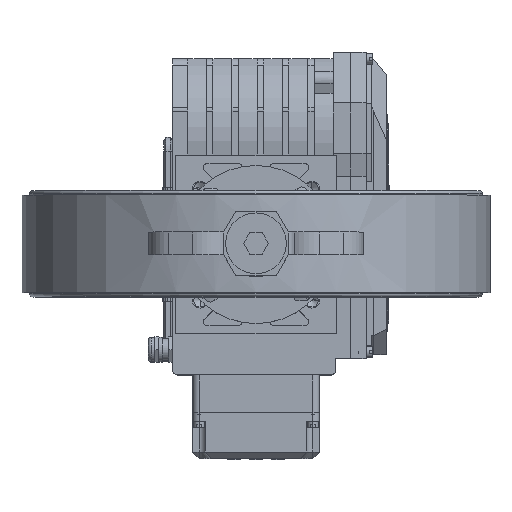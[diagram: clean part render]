
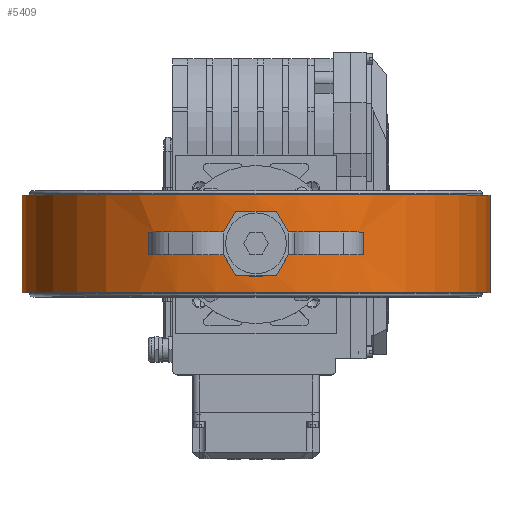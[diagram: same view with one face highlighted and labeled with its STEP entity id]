
A CAD part, top view. The second image highlights one B-rep face of the part: STEP entity #5409.
In plain terms, the highlighted cylindrical face has radius 185 mm (diameter 370 mm), a partial arc.
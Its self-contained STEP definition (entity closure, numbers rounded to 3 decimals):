
#2=DIRECTION('',(0.,1.,0.));
#3=VECTOR('',#2,77.);
#4=CARTESIAN_POINT('',(185.,-38.5,0.));
#5=LINE('',#4,#3);
#65=CARTESIAN_POINT('',(0.,-38.5,0.));
#66=DIRECTION('',(0.,1.,0.));
#67=DIRECTION('',(-1.,0.,0.));
#68=AXIS2_PLACEMENT_3D('',#65,#66,#67);
#80=DIRECTION('',(0.,1.,0.));
#81=VECTOR('',#80,77.);
#82=CARTESIAN_POINT('',(-185.,-38.5,0.));
#83=LINE('',#82,#81);
#84=DIRECTION('',(0.,-1.,0.));
#85=VECTOR('',#84,18.);
#86=CARTESIAN_POINT('',(50.841,9.,177.877));
#87=LINE('',#86,#85);
#88=DIRECTION('',(0.,1.,0.));
#89=VECTOR('',#88,18.);
#90=CARTESIAN_POINT('',(80.969,-9.,166.34));
#91=LINE('',#90,#89);
#92=DIRECTION('',(0.,1.,0.));
#93=VECTOR('',#92,18.);
#94=CARTESIAN_POINT('',(-50.841,-9.,177.877));
#95=LINE('',#94,#93);
#96=DIRECTION('',(0.,-1.,0.));
#97=VECTOR('',#96,18.);
#98=CARTESIAN_POINT('',(-80.969,9.,166.34));
#99=LINE('',#98,#97);
#100=CARTESIAN_POINT('',(0.,9.,0.));
#101=DIRECTION('',(0.,1.,0.));
#102=DIRECTION('',(-0.182,0.,0.983));
#103=AXIS2_PLACEMENT_3D('',#100,#101,#102);
#105=DIRECTION('',(0.,1.,0.));
#106=VECTOR('',#105,18.);
#107=CARTESIAN_POINT('',(-33.679,-9.,181.908));
#108=LINE('',#107,#106);
#109=CARTESIAN_POINT('',(0.,-9.,0.));
#110=DIRECTION('',(0.,1.,0.));
#111=DIRECTION('',(-0.182,0.,0.983));
#112=AXIS2_PLACEMENT_3D('',#109,#110,#111);
#114=CARTESIAN_POINT('',(0.,-25.5,0.));
#115=DIRECTION('',(0.,1.,0.));
#116=DIRECTION('',(-0.086,0.,0.996));
#117=AXIS2_PLACEMENT_3D('',#114,#115,#116);
#119=CARTESIAN_POINT('',(0.,-9.,0.));
#120=DIRECTION('',(0.,1.,0.));
#121=DIRECTION('',(0.138,0.,0.99));
#122=AXIS2_PLACEMENT_3D('',#119,#120,#121);
#124=DIRECTION('',(0.,1.,0.));
#125=VECTOR('',#124,18.);
#126=CARTESIAN_POINT('',(33.679,-9.,181.908));
#127=LINE('',#126,#125);
#128=CARTESIAN_POINT('',(0.,9.,0.));
#129=DIRECTION('',(0.,1.,0.));
#130=DIRECTION('',(0.138,0.,0.99));
#131=AXIS2_PLACEMENT_3D('',#128,#129,#130);
#133=CARTESIAN_POINT('',(0.,25.5,0.));
#134=DIRECTION('',(0.,1.,0.));
#135=DIRECTION('',(-0.086,0.,0.996));
#136=AXIS2_PLACEMENT_3D('',#133,#134,#135);
#143=CARTESIAN_POINT('',(0.,38.5,0.));
#144=DIRECTION('',(0.,1.,0.));
#145=DIRECTION('',(-1.,0.,0.));
#146=AXIS2_PLACEMENT_3D('',#143,#144,#145);
#911=CARTESIAN_POINT('',(-25.5,9.,183.234));
#912=CARTESIAN_POINT('',(-22.327,14.496,183.676));
#913=CARTESIAN_POINT('',(-19.151,19.996,184.034));
#914=CARTESIAN_POINT('',(-15.974,25.5,184.309));
#936=CARTESIAN_POINT('',(15.974,25.5,184.309));
#937=CARTESIAN_POINT('',(19.151,19.996,184.034));
#938=CARTESIAN_POINT('',(22.327,14.496,183.676));
#939=CARTESIAN_POINT('',(25.5,9.,183.234));
#961=CARTESIAN_POINT('',(25.5,-9.,183.234));
#962=CARTESIAN_POINT('',(22.327,-14.496,183.676));
#963=CARTESIAN_POINT('',(19.151,-19.996,184.034));
#964=CARTESIAN_POINT('',(15.974,-25.5,184.309));
#1710=CARTESIAN_POINT('',(-15.974,-25.5,184.309));
#1711=CARTESIAN_POINT('',(-19.151,-19.996,
184.034));
#1712=CARTESIAN_POINT('',(-22.327,-14.496,
183.676));
#1713=CARTESIAN_POINT('',(-25.5,-9.,183.234));
#1803=CARTESIAN_POINT('',(0.,-9.,0.));
#1804=DIRECTION('',(0.,-1.,0.));
#1805=DIRECTION('',(0.438,0.,0.899));
#1806=AXIS2_PLACEMENT_3D('',#1803,#1804,#1805);
#1924=CARTESIAN_POINT('',(0.,-9.,0.));
#1925=DIRECTION('',(0.,-1.,0.));
#1926=DIRECTION('',(-0.275,0.,0.961));
#1927=AXIS2_PLACEMENT_3D('',#1924,#1925,#1926);
#2082=CARTESIAN_POINT('',(0.,9.,0.));
#2083=DIRECTION('',(0.,1.,0.));
#2084=DIRECTION('',(0.275,0.,0.961));
#2085=AXIS2_PLACEMENT_3D('',#2082,#2083,#2084);
#2187=CARTESIAN_POINT('',(0.,9.,0.));
#2188=DIRECTION('',(0.,1.,0.));
#2189=DIRECTION('',(-0.438,0.,0.899));
#2190=AXIS2_PLACEMENT_3D('',#2187,#2188,#2189);
#4038=CARTESIAN_POINT('',(185.,-38.5,0.));
#4039=CARTESIAN_POINT('',(-185.,-38.5,0.));
#4040=VERTEX_POINT('',#4038);
#4041=VERTEX_POINT('',#4039);
#4042=CARTESIAN_POINT('',(185.,38.5,0.));
#4043=CARTESIAN_POINT('',(-185.,38.5,0.));
#4044=VERTEX_POINT('',#4042);
#4045=VERTEX_POINT('',#4043);
#4103=CARTESIAN_POINT('',(-15.974,25.5,184.309));
#4105=VERTEX_POINT('',#4103);
#4107=CARTESIAN_POINT('',(15.974,25.5,184.309));
#4109=VERTEX_POINT('',#4107);
#4111=CARTESIAN_POINT('',(-15.974,-25.5,184.309));
#4113=VERTEX_POINT('',#4111);
#4115=CARTESIAN_POINT('',(15.974,-25.5,184.309));
#4117=VERTEX_POINT('',#4115);
#5024=CARTESIAN_POINT('',(50.841,9.,177.877));
#5025=CARTESIAN_POINT('',(50.841,-9.,177.877));
#5026=VERTEX_POINT('',#5024);
#5027=VERTEX_POINT('',#5025);
#5032=CARTESIAN_POINT('',(80.969,-9.,166.34));
#5033=CARTESIAN_POINT('',(80.969,9.,166.34));
#5034=VERTEX_POINT('',#5032);
#5035=VERTEX_POINT('',#5033);
#5124=CARTESIAN_POINT('',(-80.969,9.,166.34));
#5125=CARTESIAN_POINT('',(-80.969,-9.,166.34));
#5126=VERTEX_POINT('',#5124);
#5127=VERTEX_POINT('',#5125);
#5132=CARTESIAN_POINT('',(-50.841,-9.,177.877));
#5133=CARTESIAN_POINT('',(-50.841,9.,177.877));
#5134=VERTEX_POINT('',#5132);
#5135=VERTEX_POINT('',#5133);
#5224=CARTESIAN_POINT('',(-33.679,9.,181.908));
#5225=CARTESIAN_POINT('',(-25.5,9.,183.234));
#5226=VERTEX_POINT('',#5224);
#5227=VERTEX_POINT('',#5225);
#5228=CARTESIAN_POINT('',(25.5,9.,183.234));
#5229=CARTESIAN_POINT('',(33.679,9.,181.908));
#5230=VERTEX_POINT('',#5228);
#5231=VERTEX_POINT('',#5229);
#5232=CARTESIAN_POINT('',(-33.679,-9.,181.908));
#5233=CARTESIAN_POINT('',(-25.5,-9.,183.234));
#5234=VERTEX_POINT('',#5232);
#5235=VERTEX_POINT('',#5233);
#5236=CARTESIAN_POINT('',(25.5,-9.,183.234));
#5237=CARTESIAN_POINT('',(33.679,-9.,181.908));
#5238=VERTEX_POINT('',#5236);
#5239=VERTEX_POINT('',#5237);
#5351=CARTESIAN_POINT('',(0.,-38.5,0.));
#5352=DIRECTION('',(0.,1.,0.));
#5353=DIRECTION('',(1.,0.,0.));
#5354=AXIS2_PLACEMENT_3D('',#5351,#5352,#5353);
#5355=CYLINDRICAL_SURFACE('',#5354,185.);
#5356=ORIENTED_EDGE('',*,*,#5340,.F.);
#5357=ORIENTED_EDGE('',*,*,#5283,.T.);
#5359=ORIENTED_EDGE('',*,*,#5358,.T.);
#5360=ORIENTED_EDGE('',*,*,#5279,.F.);
#5361=EDGE_LOOP('',(#5356,#5357,#5359,#5360));
#5362=FACE_OUTER_BOUND('',#5361,.F.);
#5364=ORIENTED_EDGE('',*,*,#5363,.T.);
#5366=ORIENTED_EDGE('',*,*,#5365,.F.);
#5368=ORIENTED_EDGE('',*,*,#5367,.T.);
#5370=ORIENTED_EDGE('',*,*,#5369,.F.);
#5371=EDGE_LOOP('',(#5364,#5366,#5368,#5370));
#5372=FACE_BOUND('',#5371,.F.);
#5374=ORIENTED_EDGE('',*,*,#5373,.F.);
#5376=ORIENTED_EDGE('',*,*,#5375,.T.);
#5378=ORIENTED_EDGE('',*,*,#5377,.F.);
#5380=ORIENTED_EDGE('',*,*,#5379,.T.);
#5381=EDGE_LOOP('',(#5374,#5376,#5378,#5380));
#5382=FACE_BOUND('',#5381,.F.);
#5384=ORIENTED_EDGE('',*,*,#5383,.F.);
#5386=ORIENTED_EDGE('',*,*,#5385,.F.);
#5388=ORIENTED_EDGE('',*,*,#5387,.T.);
#5390=ORIENTED_EDGE('',*,*,#5389,.F.);
#5392=ORIENTED_EDGE('',*,*,#5391,.T.);
#5394=ORIENTED_EDGE('',*,*,#5393,.F.);
#5396=ORIENTED_EDGE('',*,*,#5395,.T.);
#5398=ORIENTED_EDGE('',*,*,#5397,.T.);
#5400=ORIENTED_EDGE('',*,*,#5399,.F.);
#5402=ORIENTED_EDGE('',*,*,#5401,.F.);
#5404=ORIENTED_EDGE('',*,*,#5403,.F.);
#5406=ORIENTED_EDGE('',*,*,#5405,.F.);
#5407=EDGE_LOOP('',(#5384,#5386,#5388,#5390,#5392,#5394,#5396,#5398,#5400,#5402,
#5404,#5406));
#5408=FACE_BOUND('',#5407,.F.);
#5409=ADVANCED_FACE('',(#5362,#5372,#5382,#5408),#5355,.T.);
#69=CIRCLE('',#68,185.);
#104=CIRCLE('',#103,185.);
#113=CIRCLE('',#112,185.);
#118=CIRCLE('',#117,185.);
#123=CIRCLE('',#122,185.);
#132=CIRCLE('',#131,185.);
#137=CIRCLE('',#136,185.);
#147=CIRCLE('',#146,185.);
#915=B_SPLINE_CURVE_WITH_KNOTS('',3,(#911,#912,#913,#914),.UNSPECIFIED.,.F.,.F.,
(4,4),(0.,1.),.UNSPECIFIED.);
#940=B_SPLINE_CURVE_WITH_KNOTS('',3,(#936,#937,#938,#939),.UNSPECIFIED.,.F.,.F.,
(4,4),(0.,1.),.UNSPECIFIED.);
#965=B_SPLINE_CURVE_WITH_KNOTS('',3,(#961,#962,#963,#964),.UNSPECIFIED.,.F.,.F.,
(4,4),(0.,1.),.UNSPECIFIED.);
#1714=B_SPLINE_CURVE_WITH_KNOTS('',3,(#1710,#1711,#1712,#1713),.UNSPECIFIED.,
.F.,.F.,(4,4),(0.,1.),.UNSPECIFIED.);
#1807=CIRCLE('',#1806,185.);
#1928=CIRCLE('',#1927,185.);
#2086=CIRCLE('',#2085,185.);
#2191=CIRCLE('',#2190,185.);
#5279=EDGE_CURVE('',#4040,#4044,#5,.T.);
#5283=EDGE_CURVE('',#4041,#4045,#83,.T.);
#5340=EDGE_CURVE('',#4041,#4040,#69,.T.);
#5358=EDGE_CURVE('',#4045,#4044,#147,.T.);
#5363=EDGE_CURVE('',#5026,#5027,#87,.T.);
#5365=EDGE_CURVE('',#5034,#5027,#1807,.T.);
#5367=EDGE_CURVE('',#5034,#5035,#91,.T.);
#5369=EDGE_CURVE('',#5026,#5035,#2086,.T.);
#5373=EDGE_CURVE('',#5134,#5127,#1928,.T.);
#5375=EDGE_CURVE('',#5134,#5135,#95,.T.);
#5377=EDGE_CURVE('',#5126,#5135,#2191,.T.);
#5379=EDGE_CURVE('',#5126,#5127,#99,.T.);
#5383=EDGE_CURVE('',#5226,#5227,#104,.T.);
#5385=EDGE_CURVE('',#5234,#5226,#108,.T.);
#5387=EDGE_CURVE('',#5234,#5235,#113,.T.);
#5389=EDGE_CURVE('',#4113,#5235,#1714,.T.);
#5391=EDGE_CURVE('',#4113,#4117,#118,.T.);
#5393=EDGE_CURVE('',#5238,#4117,#965,.T.);
#5395=EDGE_CURVE('',#5238,#5239,#123,.T.);
#5397=EDGE_CURVE('',#5239,#5231,#127,.T.);
#5399=EDGE_CURVE('',#5230,#5231,#132,.T.);
#5401=EDGE_CURVE('',#4109,#5230,#940,.T.);
#5403=EDGE_CURVE('',#4105,#4109,#137,.T.);
#5405=EDGE_CURVE('',#5227,#4105,#915,.T.);
